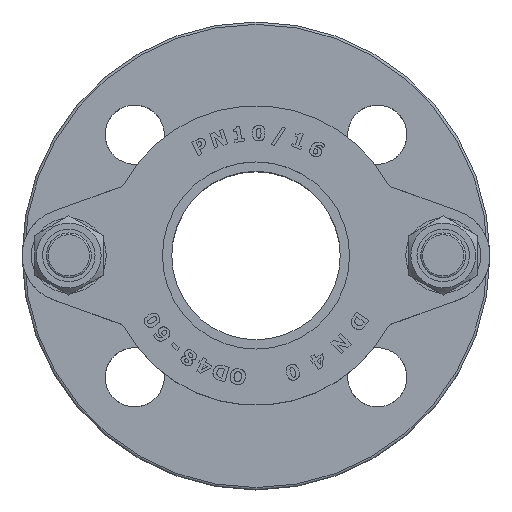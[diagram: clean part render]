
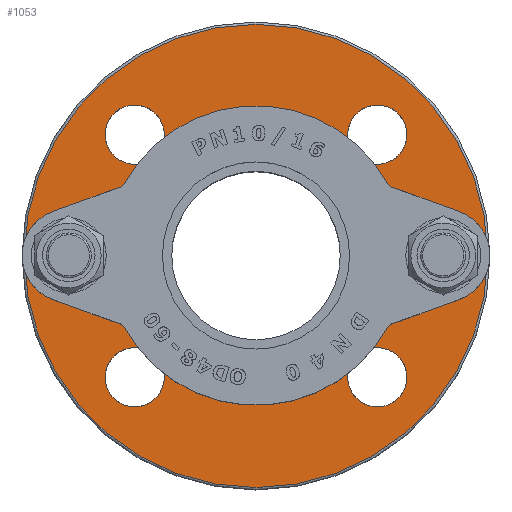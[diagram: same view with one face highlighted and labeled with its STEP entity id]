
A CAD part, top view. The second image highlights one B-rep face of the part: STEP entity #1053.
In plain terms, the highlighted planar face has unit normal (0, 0, 1).
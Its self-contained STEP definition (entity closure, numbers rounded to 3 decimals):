
#1053=ADVANCED_FACE('',(#5199,#5201,#5203,#5205,#5207,#5209,#5211,#5213),#5215,.T.);
#5199=FACE_BOUND('',#5200,.T.);
#5200=EDGE_LOOP('',(#10110));
#5201=FACE_BOUND('',#5202,.T.);
#5202=EDGE_LOOP('',(#10111));
#5203=FACE_BOUND('',#5204,.T.);
#5204=EDGE_LOOP('',(#10112));
#5205=FACE_BOUND('',#5206,.T.);
#5206=EDGE_LOOP('',(#10113));
#5207=FACE_BOUND('',#5208,.T.);
#5208=EDGE_LOOP('',(#10114));
#5209=FACE_BOUND('',#5210,.T.);
#5210=EDGE_LOOP('',(#10115));
#5211=FACE_BOUND('',#5212,.T.);
#5212=EDGE_LOOP('',(#10116));
#5213=FACE_BOUND('',#5214,.T.);
#5214=EDGE_LOOP('',(#10117));
#5215=PLANE('',#5216);
#5216=AXIS2_PLACEMENT_3D('',#5217,#5218,#5219);
#5217=CARTESIAN_POINT('',(0.,0.,19.));
#5218=DIRECTION('',(0.,0.,1.));
#5219=DIRECTION('',(-1.,0.,0.));
#10110=ORIENTED_EDGE('',*,*,#13968,.T.);
#10111=ORIENTED_EDGE('',*,*,#13966,.T.);
#10112=ORIENTED_EDGE('',*,*,#13969,.T.);
#10113=ORIENTED_EDGE('',*,*,#13970,.T.);
#10114=ORIENTED_EDGE('',*,*,#13971,.T.);
#10115=ORIENTED_EDGE('',*,*,#13972,.T.);
#10116=ORIENTED_EDGE('',*,*,#13973,.T.);
#10117=ORIENTED_EDGE('',*,*,#13974,.T.);
#13966=EDGE_CURVE('',#15644,#15644,#15645,.T.);
#13968=EDGE_CURVE('',#15648,#15648,#15649,.T.);
#13969=EDGE_CURVE('',#15650,#15650,#15651,.F.);
#13970=EDGE_CURVE('',#15652,#15652,#15653,.F.);
#13971=EDGE_CURVE('',#15654,#15654,#15655,.T.);
#13972=EDGE_CURVE('',#15656,#15656,#15657,.T.);
#13973=EDGE_CURVE('',#15658,#15658,#15659,.T.);
#13974=EDGE_CURVE('',#15660,#15660,#15661,.T.);
#15644=VERTEX_POINT('',#21056);
#15645=CIRCLE('',#21057,33.75);
#15648=VERTEX_POINT('',#21066);
#15649=CIRCLE('',#21067,74.25);
#15650=VERTEX_POINT('',#21071);
#15651=CIRCLE('',#21072,8.);
#15652=VERTEX_POINT('',#21076);
#15653=CIRCLE('',#21077,8.);
#15654=VERTEX_POINT('',#21081);
#15655=CIRCLE('',#21082,9.5);
#15656=VERTEX_POINT('',#21086);
#15657=CIRCLE('',#21087,9.5);
#15658=VERTEX_POINT('',#21091);
#15659=CIRCLE('',#21092,9.5);
#15660=VERTEX_POINT('',#21096);
#15661=CIRCLE('',#21097,9.5);
#21056=CARTESIAN_POINT('',(0.,33.75,19.));
#21057=AXIS2_PLACEMENT_3D('',#21058,#21059,#21060);
#21058=CARTESIAN_POINT('',(0.,0.,19.));
#21059=DIRECTION('',(0.,0.,-1.));
#21060=DIRECTION('',(0.,1.,0.));
#21066=CARTESIAN_POINT('',(-74.25,0.,19.));
#21067=AXIS2_PLACEMENT_3D('',#21068,#21069,#21070);
#21068=CARTESIAN_POINT('',(0.,0.,19.));
#21069=DIRECTION('',(0.,0.,1.));
#21070=DIRECTION('',(-1.,0.,0.));
#21071=CARTESIAN_POINT('',(68.,0.,19.));
#21072=AXIS2_PLACEMENT_3D('',#21073,#21074,#21075);
#21073=CARTESIAN_POINT('',(60.,0.,19.));
#21074=DIRECTION('',(0.,0.,1.));
#21075=DIRECTION('',(1.,0.,0.));
#21076=CARTESIAN_POINT('',(-68.,0.,19.));
#21077=AXIS2_PLACEMENT_3D('',#21078,#21079,#21080);
#21078=CARTESIAN_POINT('',(-60.,0.,19.));
#21079=DIRECTION('',(0.,0.,1.));
#21080=DIRECTION('',(-1.,0.,0.));
#21081=CARTESIAN_POINT('',(-48.391,38.891,19.));
#21082=AXIS2_PLACEMENT_3D('',#21083,#21084,#21085);
#21083=CARTESIAN_POINT('',(-38.891,38.891,19.));
#21084=DIRECTION('',(0.,0.,-1.));
#21085=DIRECTION('',(-1.,0.,0.));
#21086=CARTESIAN_POINT('',(-38.891,-48.391,19.));
#21087=AXIS2_PLACEMENT_3D('',#21088,#21089,#21090);
#21088=CARTESIAN_POINT('',(-38.891,-38.891,19.));
#21089=DIRECTION('',(0.,0.,-1.));
#21090=DIRECTION('',(0.,-1.,0.));
#21091=CARTESIAN_POINT('',(38.891,48.391,19.));
#21092=AXIS2_PLACEMENT_3D('',#21093,#21094,#21095);
#21093=CARTESIAN_POINT('',(38.891,38.891,19.));
#21094=DIRECTION('',(0.,0.,-1.));
#21095=DIRECTION('',(0.,1.,0.));
#21096=CARTESIAN_POINT('',(48.391,-38.891,19.));
#21097=AXIS2_PLACEMENT_3D('',#21098,#21099,#21100);
#21098=CARTESIAN_POINT('',(38.891,-38.891,19.));
#21099=DIRECTION('',(0.,0.,-1.));
#21100=DIRECTION('',(1.,0.,0.));
